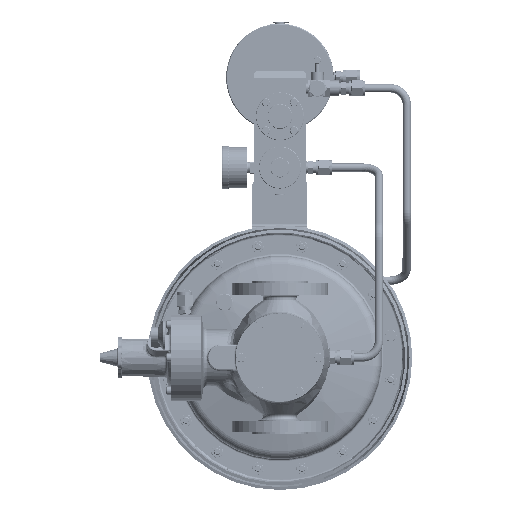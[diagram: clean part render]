
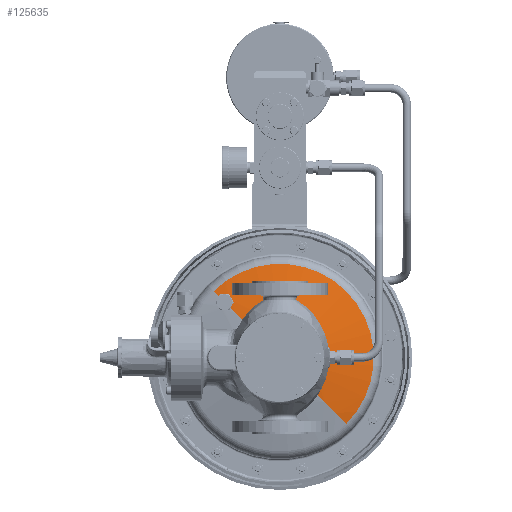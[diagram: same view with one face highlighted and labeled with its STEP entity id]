
A CAD part, front view. The second image highlights one B-rep face of the part: STEP entity #125635.
In plain terms, the highlighted spherical face has radius 403.5 mm.
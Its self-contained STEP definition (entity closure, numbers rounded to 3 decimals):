
#32986=CARTESIAN_POINT('',(-60.069,109.578,
60.069));
#32987=CARTESIAN_POINT('',(-59.972,109.578,
60.166));
#32988=CARTESIAN_POINT('',(-59.782,109.579,
60.364));
#32989=CARTESIAN_POINT('',(-59.51,109.585,
60.673));
#32990=CARTESIAN_POINT('',(-59.253,109.596,
60.993));
#32991=CARTESIAN_POINT('',(-59.01,109.611,
61.323));
#32992=CARTESIAN_POINT('',(-58.781,109.63,
61.663));
#32993=CARTESIAN_POINT('',(-58.569,109.653,
62.01));
#32994=CARTESIAN_POINT('',(-58.372,109.679,
62.365));
#32995=CARTESIAN_POINT('',(-58.191,109.71,
62.727));
#32996=CARTESIAN_POINT('',(-58.026,109.744,
63.094));
#32997=CARTESIAN_POINT('',(-57.877,109.782,
63.467));
#32998=CARTESIAN_POINT('',(-57.745,109.824,
63.843));
#32999=CARTESIAN_POINT('',(-57.629,109.868,
64.224));
#33000=CARTESIAN_POINT('',(-57.529,109.916,
64.607));
#33001=CARTESIAN_POINT('',(-57.446,109.968,
64.993));
#33002=CARTESIAN_POINT('',(-57.378,110.022,
65.38));
#33003=CARTESIAN_POINT('',(-57.327,110.079,
65.769));
#33004=CARTESIAN_POINT('',(-57.292,110.139,
66.159));
#33005=CARTESIAN_POINT('',(-57.273,110.202,
66.55));
#33006=CARTESIAN_POINT('',(-57.27,110.268,
66.941));
#33007=CARTESIAN_POINT('',(-57.283,110.337,
67.331));
#33008=CARTESIAN_POINT('',(-57.311,110.408,
67.722));
#33009=CARTESIAN_POINT('',(-57.356,110.482,
68.112));
#33010=CARTESIAN_POINT('',(-57.418,110.558,
68.5));
#33011=CARTESIAN_POINT('',(-57.495,110.637,
68.888));
#33012=CARTESIAN_POINT('',(-57.589,110.719,
69.274));
#33013=CARTESIAN_POINT('',(-57.699,110.803,
69.657));
#33014=CARTESIAN_POINT('',(-57.827,110.889,
70.039));
#33015=CARTESIAN_POINT('',(-57.971,110.978,
70.417));
#33016=CARTESIAN_POINT('',(-58.133,111.069,
70.791));
#33017=CARTESIAN_POINT('',(-58.312,111.163,
71.162));
#33018=CARTESIAN_POINT('',(-58.509,111.258,
71.529));
#33019=CARTESIAN_POINT('',(-58.724,111.356,
71.89));
#33020=CARTESIAN_POINT('',(-58.957,111.457,
72.245));
#33021=CARTESIAN_POINT('',(-59.209,111.559,
72.593));
#33022=CARTESIAN_POINT('',(-59.478,111.662,
72.932));
#33023=CARTESIAN_POINT('',(-59.764,111.767,
73.26));
#33024=CARTESIAN_POINT('',(-60.065,111.872,
73.576));
#33025=CARTESIAN_POINT('',(-60.381,111.977,
73.877));
#33026=CARTESIAN_POINT('',(-60.71,112.082,
74.164));
#33027=CARTESIAN_POINT('',(-61.051,112.187,
74.435));
#33028=CARTESIAN_POINT('',(-61.405,112.29,
74.691));
#33029=CARTESIAN_POINT('',(-61.769,112.393,
74.929));
#33030=CARTESIAN_POINT('',(-62.144,112.495,
75.151));
#33031=CARTESIAN_POINT('',(-62.528,112.595,
75.356));
#33032=CARTESIAN_POINT('',(-62.92,112.694,
75.542));
#33033=CARTESIAN_POINT('',(-63.321,112.791,
75.71));
#33034=CARTESIAN_POINT('',(-63.727,112.886,
75.86));
#33035=CARTESIAN_POINT('',(-64.14,112.979,
75.991));
#33036=CARTESIAN_POINT('',(-64.558,113.07,
76.103));
#33037=CARTESIAN_POINT('',(-64.98,113.158,
76.196));
#33038=CARTESIAN_POINT('',(-65.405,113.243,
76.269));
#33039=CARTESIAN_POINT('',(-65.833,113.326,
76.324));
#33040=CARTESIAN_POINT('',(-66.261,113.405,
76.358));
#33041=CARTESIAN_POINT('',(-66.69,113.481,
76.374));
#33042=CARTESIAN_POINT('',(-67.119,113.554,
76.37));
#33043=CARTESIAN_POINT('',(-67.546,113.623,
76.347));
#33044=CARTESIAN_POINT('',(-67.972,113.688,
76.305));
#33045=CARTESIAN_POINT('',(-68.394,113.75,
76.244));
#33046=CARTESIAN_POINT('',(-68.813,113.808,
76.165));
#33047=CARTESIAN_POINT('',(-69.227,113.863,
76.067));
#33048=CARTESIAN_POINT('',(-69.635,113.913,
75.951));
#33049=CARTESIAN_POINT('',(-70.038,113.959,
75.817));
#33050=CARTESIAN_POINT('',(-70.434,114.001,
75.665));
#33051=CARTESIAN_POINT('',(-70.822,114.038,
75.497));
#33052=CARTESIAN_POINT('',(-71.202,114.071,
75.311));
#33053=CARTESIAN_POINT('',(-71.573,114.1,
75.109));
#33054=CARTESIAN_POINT('',(-71.935,114.125,
74.891));
#33055=CARTESIAN_POINT('',(-72.286,114.145,
74.658));
#33056=CARTESIAN_POINT('',(-72.626,114.161,
74.409));
#33057=CARTESIAN_POINT('',(-72.955,114.172,
74.146));
#33058=CARTESIAN_POINT('',(-73.272,114.179,
73.868));
#33059=CARTESIAN_POINT('',(-73.475,114.18,
73.674));
#33060=CARTESIAN_POINT('',(-73.574,114.18,
73.574));
#33062=CARTESIAN_POINT('',(0.,504.034,0.));
#33063=DIRECTION('',(-0.707,0.,-0.707));
#33064=DIRECTION('',(-0.182,-0.966,0.182));
#33065=AXIS2_PLACEMENT_3D('',#33062,#33063,#33064);
#33067=CARTESIAN_POINT('',(0.,504.034,0.));
#33068=DIRECTION('',(-0.707,0.,-0.707));
#33069=DIRECTION('',(0.199,-0.96,-0.199));
#33070=AXIS2_PLACEMENT_3D('',#33067,#33068,#33069);
#33072=CARTESIAN_POINT('',(0.,504.034,0.));
#33073=DIRECTION('',(-0.707,0.,-0.707));
#33074=DIRECTION('',(-0.101,-0.99,0.101));
#33075=AXIS2_PLACEMENT_3D('',#33072,#33073,#33074);
#33077=CARTESIAN_POINT('',(0.,116.765,0.));
#33078=DIRECTION('',(0.,-1.,0.));
#33079=DIRECTION('',(0.707,0.,-0.707));
#33080=AXIS2_PLACEMENT_3D('',#33077,#33078,#33079);
#33135=CARTESIAN_POINT('',(0.,104.697,0.));
#33136=DIRECTION('',(0.,1.,0.));
#33137=DIRECTION('',(-0.707,0.,0.707));
#33138=AXIS2_PLACEMENT_3D('',#33135,#33136,#33137);
#89235=CARTESIAN_POINT('',(-73.574,114.18,
73.574));
#89236=VERTEX_POINT('',#89235);
#89237=CARTESIAN_POINT('',(-60.069,109.578,
60.069));
#89238=VERTEX_POINT('',#89237);
#89239=CARTESIAN_POINT('',(40.88,104.697,
-40.88));
#89240=CARTESIAN_POINT('',(-40.88,104.697,
40.88));
#89241=VERTEX_POINT('',#89239);
#89242=VERTEX_POINT('',#89240);
#89243=CARTESIAN_POINT('',(-80.108,116.765,
80.108));
#89244=VERTEX_POINT('',#89243);
#89245=CARTESIAN_POINT('',(80.108,116.765,
-80.108));
#89246=VERTEX_POINT('',#89245);
#125620=CARTESIAN_POINT('',(0.,504.034,0.));
#125621=DIRECTION('',(0.,1.,0.));
#125622=DIRECTION('',(0.707,0.,-0.707));
#125623=AXIS2_PLACEMENT_3D('',#125620,#125621,#125622);
#125624=SPHERICAL_SURFACE('',#125623,403.5);
#125625=ORIENTED_EDGE('',*,*,#112038,.T.);
#125626=ORIENTED_EDGE('',*,*,#112009,.T.);
#125628=ORIENTED_EDGE('',*,*,#125627,.F.);
#125629=ORIENTED_EDGE('',*,*,#112005,.T.);
#125631=ORIENTED_EDGE('',*,*,#125630,.F.);
#125632=ORIENTED_EDGE('',*,*,#112002,.T.);
#125633=EDGE_LOOP('',(#125625,#125626,#125628,#125629,#125631,#125632));
#125634=FACE_OUTER_BOUND('',#125633,.F.);
#125635=ADVANCED_FACE('',(#125634),#125624,.T.);
#33061=B_SPLINE_CURVE_WITH_KNOTS('',3,(#32986,#32987,#32988,#32989,#32990,
#32991,#32992,#32993,#32994,#32995,#32996,#32997,#32998,#32999,#33000,#33001,
#33002,#33003,#33004,#33005,#33006,#33007,#33008,#33009,#33010,#33011,#33012,
#33013,#33014,#33015,#33016,#33017,#33018,#33019,#33020,#33021,#33022,#33023,
#33024,#33025,#33026,#33027,#33028,#33029,#33030,#33031,#33032,#33033,#33034,
#33035,#33036,#33037,#33038,#33039,#33040,#33041,#33042,#33043,#33044,#33045,
#33046,#33047,#33048,#33049,#33050,#33051,#33052,#33053,#33054,#33055,#33056,
#33057,#33058,#33059,#33060),.UNSPECIFIED.,.F.,.F.,(4,1,1,1,1,1,1,1,1,1,1,1,1,1,
1,1,1,1,1,1,1,1,1,1,1,1,1,1,1,1,1,1,1,1,1,1,1,1,1,1,1,1,1,1,1,1,1,1,1,1,1,1,1,1,
1,1,1,1,1,1,1,1,1,1,1,1,1,1,1,1,1,1,4),(0.,0.014,
0.028,0.042,0.056,0.069,
0.083,0.097,0.111,0.125,0.139,
0.153,0.167,0.181,0.194,
0.208,0.222,0.236,0.25,0.264,
0.278,0.292,0.306,0.319,
0.333,0.347,0.361,0.375,0.389,
0.403,0.417,0.431,0.444,
0.458,0.472,0.486,0.5,0.514,
0.528,0.542,0.556,0.569,
0.583,0.597,0.611,0.625,0.639,
0.653,0.667,0.681,0.694,
0.708,0.722,0.736,0.75,0.764,
0.778,0.792,0.806,0.819,
0.833,0.847,0.861,0.875,0.889,
0.903,0.917,0.931,0.944,
0.958,0.972,0.986,1.),.UNSPECIFIED.);
#33066=CIRCLE('',#33065,403.5);
#33071=CIRCLE('',#33070,403.5);
#33076=CIRCLE('',#33075,403.5);
#33081=CIRCLE('',#33080,113.29);
#33139=CIRCLE('',#33138,57.814);
#112002=EDGE_CURVE('',#89242,#89238,#33076,.T.);
#112005=EDGE_CURVE('',#89246,#89241,#33071,.T.);
#112009=EDGE_CURVE('',#89236,#89244,#33066,.T.);
#112038=EDGE_CURVE('',#89238,#89236,#33061,.T.);
#125627=EDGE_CURVE('',#89246,#89244,#33081,.T.);
#125630=EDGE_CURVE('',#89242,#89241,#33139,.T.);
